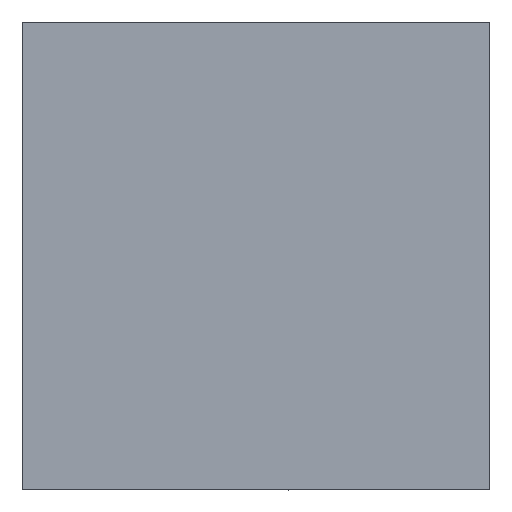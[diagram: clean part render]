
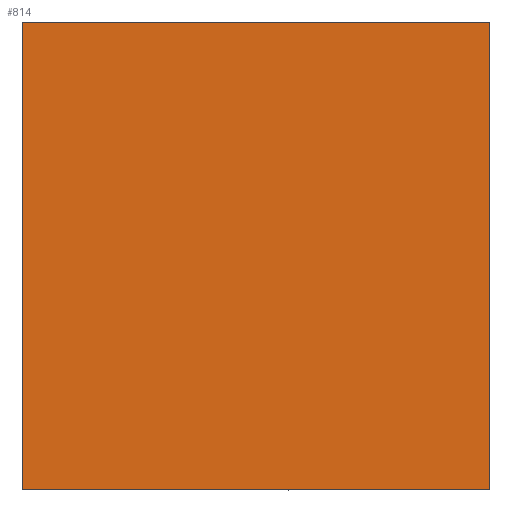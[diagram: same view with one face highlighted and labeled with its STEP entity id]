
A CAD part, front view. The second image highlights one B-rep face of the part: STEP entity #814.
In plain terms, the highlighted planar face has unit normal (0, -1, 0).
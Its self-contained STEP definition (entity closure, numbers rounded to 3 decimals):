
#353=CARTESIAN_POINT('Vertex',(-12.5,0.,12.5)) ;
#356=CARTESIAN_POINT('Line Origine',(0.,0.,12.5)) ;
#360=CARTESIAN_POINT('Vertex',(12.5,0.,12.5)) ;
#386=CARTESIAN_POINT('Vertex',(12.5,0.,-12.5)) ;
#389=CARTESIAN_POINT('Line Origine',(12.5,0.,0.)) ;
#575=CARTESIAN_POINT('Vertex',(-12.5,0.,-12.5)) ;
#578=CARTESIAN_POINT('Line Origine',(0.,0.,-12.5)) ;
#722=CARTESIAN_POINT('Line Origine',(-12.5,0.,0.)) ;
#803=CARTESIAN_POINT('Axis2P3D Location',(0.,0.,-0.)) ;
#357=DIRECTION('Vector Direction',(1.,0.,0.)) ;
#390=DIRECTION('Vector Direction',(0.,0.,-1.)) ;
#579=DIRECTION('Vector Direction',(-1.,0.,0.)) ;
#723=DIRECTION('Vector Direction',(0.,0.,1.)) ;
#804=DIRECTION('Axis2P3D Direction',(0.,1.,-0.)) ;
#805=DIRECTION('Axis2P3D XDirection',(0.,0.,1.)) ;
#806=AXIS2_PLACEMENT_3D('Plane Axis2P3D',#803,#804,#805) ;
#809=ORIENTED_EDGE('',*,*,#582,.F.) ;
#810=ORIENTED_EDGE('',*,*,#393,.F.) ;
#811=ORIENTED_EDGE('',*,*,#362,.F.) ;
#812=ORIENTED_EDGE('',*,*,#726,.F.) ;
#358=VECTOR('Line Direction',#357,1.) ;
#391=VECTOR('Line Direction',#390,1.) ;
#580=VECTOR('Line Direction',#579,1.) ;
#724=VECTOR('Line Direction',#723,1.) ;
#814=ADVANCED_FACE('395V-04-025-090',(#813),#807,.F.) ;
#362=EDGE_CURVE('',#354,#361,#359,.T.) ;
#393=EDGE_CURVE('',#361,#387,#392,.T.) ;
#582=EDGE_CURVE('',#387,#576,#581,.T.) ;
#726=EDGE_CURVE('',#576,#354,#725,.T.) ;
#808=EDGE_LOOP('',(#809,#810,#811,#812)) ;
#813=FACE_OUTER_BOUND('',#808,.T.) ;
#359=LINE('Line',#356,#358) ;
#392=LINE('Line',#389,#391) ;
#581=LINE('Line',#578,#580) ;
#725=LINE('Line',#722,#724) ;
#807=PLANE('Plane',#806) ;
#354=VERTEX_POINT('',#353) ;
#361=VERTEX_POINT('',#360) ;
#387=VERTEX_POINT('',#386) ;
#576=VERTEX_POINT('',#575) ;
